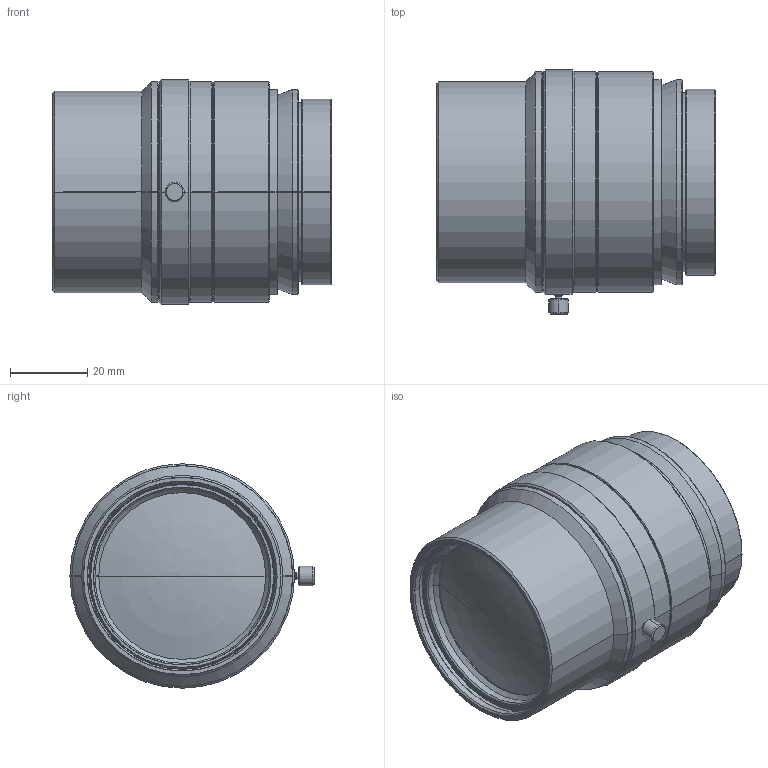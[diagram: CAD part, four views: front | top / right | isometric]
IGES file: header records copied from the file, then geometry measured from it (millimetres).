
Start section: SolidWorks IGES file using analytic representation for surfaces
Global section: file name: C:\Users\tsuji_vst\Documents\【作業フォルダ】\【3D】\00 VST\VS-L\VS-L12035-1.4_V\VS-L12035-1.4_V.IGS; native system: SolidWorks 2018; preprocessor: SolidWorks 2018; author: tsuji_vst; date: 200106.114129; units: millimetre
Bounding box: 72 x 63.05 x 58 mm (x, y, z)
Surface area: 20155.2 mm2 (no closed solid volume)
Topology: 0 solids, 0 shells, 118 faces, 2328 edges, 2326 vertices
Faces by surface type: revolution 102, bspline 16
